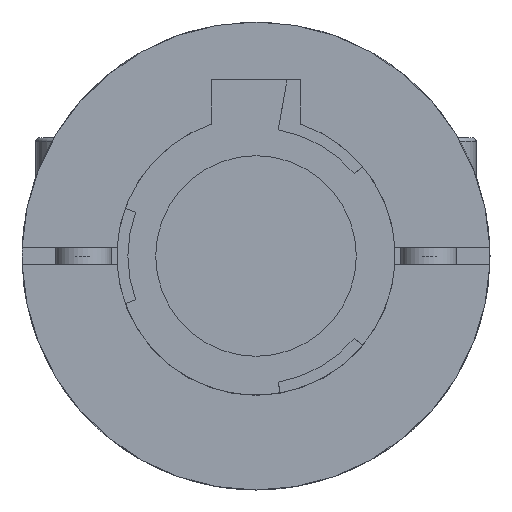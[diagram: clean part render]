
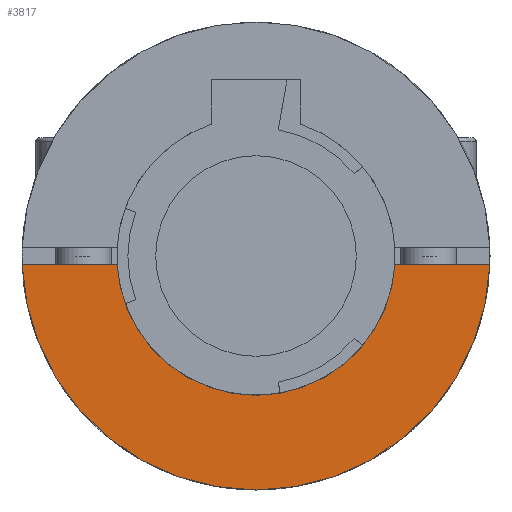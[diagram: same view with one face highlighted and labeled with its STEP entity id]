
A CAD part, left-side view. The second image highlights one B-rep face of the part: STEP entity #3817.
In plain terms, the highlighted planar face has unit normal (-1, 0, 0).
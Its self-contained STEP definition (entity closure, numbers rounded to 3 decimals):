
#153=PLANE('',#4187);
#329=FACE_OUTER_BOUND('',#549,.T.);
#549=EDGE_LOOP('',(#3187,#3188,#3189,#3190));
#862=LINE('',#6551,#1222);
#863=LINE('',#6554,#1223);
#1222=VECTOR('',#5080,1.);
#1223=VECTOR('',#5083,1.);
#1370=CIRCLE('',#3931,12.5);
#1507=CIRCLE('',#4188,21.);
#1568=VERTEX_POINT('',#5496);
#1569=VERTEX_POINT('',#5497);
#1831=VERTEX_POINT('',#6550);
#1832=VERTEX_POINT('',#6552);
#1947=EDGE_CURVE('',#1568,#1569,#1370,.T.);
#2316=EDGE_CURVE('',#1569,#1831,#862,.F.);
#2317=EDGE_CURVE('',#1831,#1832,#1507,.T.);
#2318=EDGE_CURVE('',#1832,#1568,#863,.F.);
#3187=ORIENTED_EDGE('',*,*,#1947,.T.);
#3188=ORIENTED_EDGE('',*,*,#2316,.T.);
#3189=ORIENTED_EDGE('',*,*,#2317,.T.);
#3190=ORIENTED_EDGE('',*,*,#2318,.T.);
#3817=ADVANCED_FACE('',(#329),#153,.F.);
#3931=AXIS2_PLACEMENT_3D('',#5498,#4348,#4349);
#4187=AXIS2_PLACEMENT_3D('',#6549,#5078,#5079);
#4188=AXIS2_PLACEMENT_3D('',#6553,#5081,#5082);
#4348=DIRECTION('center_axis',(1.,0.,0.));
#4349=DIRECTION('ref_axis',(0.,0.,1.));
#5078=DIRECTION('center_axis',(1.,0.,0.));
#5079=DIRECTION('ref_axis',(0.,0.,-1.));
#5080=DIRECTION('',(0.,-1.,0.));
#5081=DIRECTION('center_axis',(-1.,0.,0.));
#5082=DIRECTION('ref_axis',(0.,-1.,0.));
#5083=DIRECTION('',(0.,-1.,0.));
#5496=CARTESIAN_POINT('',(0.,-12.474,-0.8));
#5497=CARTESIAN_POINT('',(0.,12.474,-0.8));
#5498=CARTESIAN_POINT('Origin',(0.,0.,0.));
#6549=CARTESIAN_POINT('Origin',(0.,0.,4.));
#6550=CARTESIAN_POINT('',(0.,20.985,-0.8));
#6551=CARTESIAN_POINT('',(0.,12.5,-0.8));
#6552=CARTESIAN_POINT('',(0.,-20.985,-0.8));
#6553=CARTESIAN_POINT('Origin',(0.,0.,0.));
#6554=CARTESIAN_POINT('',(0.,12.5,-0.8));
